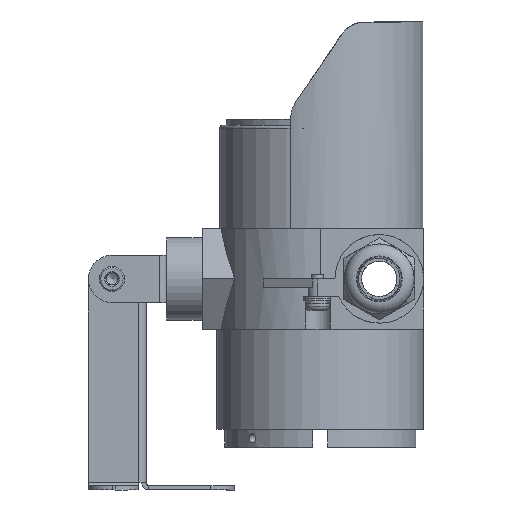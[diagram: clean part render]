
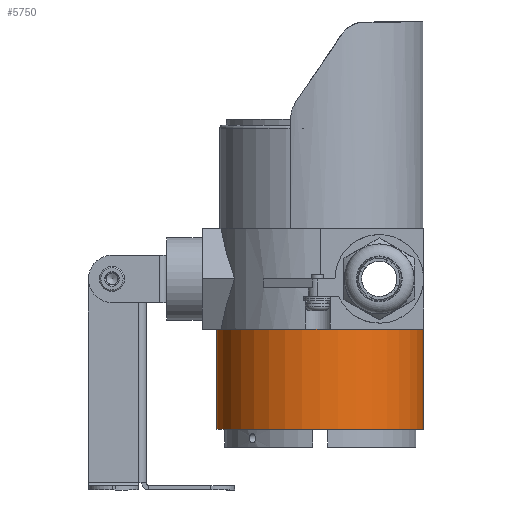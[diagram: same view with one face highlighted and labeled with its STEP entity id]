
A CAD part, left-side view. The second image highlights one B-rep face of the part: STEP entity #5750.
In plain terms, the highlighted cylindrical face has radius 35 mm (diameter 70 mm), a full revolution.
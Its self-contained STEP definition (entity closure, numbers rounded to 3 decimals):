
#154 = ORIENTED_EDGE ( 'NONE', *, *, #3615, .F. ) ;
#551 = VERTEX_POINT ( 'NONE', #10273 ) ;
#2142 = AXIS2_PLACEMENT_3D ( 'NONE', #3070, #9746, #4021 ) ;
#2212 = AXIS2_PLACEMENT_3D ( 'NONE', #4606, #11272, #5587 ) ;
#2254 = EDGE_LOOP ( 'NONE', ( #154 ) ) ;
#3070 = CARTESIAN_POINT ( 'NONE',  ( -12.55, 1.728, -42.677 ) ) ;
#3615 = EDGE_CURVE ( 'NONE', #10956, #10956, #9093, .T. ) ;
#3987 = FACE_OUTER_BOUND ( 'NONE', #2254, .T. ) ;
#4021 = DIRECTION ( 'NONE',  ( 1., 0., 0. ) ) ;
#4340 = EDGE_CURVE ( 'NONE', #551, #551, #7313, .T. ) ;
#4606 = CARTESIAN_POINT ( 'NONE',  ( -12.55, 1.728, -8.677 ) ) ;
#5587 = DIRECTION ( 'NONE',  ( 1., 0., 0. ) ) ;
#5604 = EDGE_LOOP ( 'NONE', ( #8004 ) ) ;
#5750 = ADVANCED_FACE ( 'NONE', ( #9051, #3987 ), #8751, .T. ) ;
#7313 = CIRCLE ( 'NONE', #2142, 35. ) ;
#8004 = ORIENTED_EDGE ( 'NONE', *, *, #4340, .T. ) ;
#8510 = CARTESIAN_POINT ( 'NONE',  ( -12.55, 1.728, -8.677 ) ) ;
#8551 = DIRECTION ( 'NONE',  ( 0., 0., 1. ) ) ;
#8751 = CYLINDRICAL_SURFACE ( 'NONE', #8943, 35. ) ;
#8943 = AXIS2_PLACEMENT_3D ( 'NONE', #8510, #8551, #10489 ) ;
#9051 = FACE_OUTER_BOUND ( 'NONE', #5604, .T. ) ;
#9093 = CIRCLE ( 'NONE', #2212, 35. ) ;
#9746 = DIRECTION ( 'NONE',  ( 0., 0., 1. ) ) ;
#10273 = CARTESIAN_POINT ( 'NONE',  ( 22.45, 1.728, -42.677 ) ) ;
#10489 = DIRECTION ( 'NONE',  ( 1., 0., 0. ) ) ;
#10956 = VERTEX_POINT ( 'NONE', #12152 ) ;
#11272 = DIRECTION ( 'NONE',  ( 0., 0., 1. ) ) ;
#12152 = CARTESIAN_POINT ( 'NONE',  ( 22.45, 1.728, -8.677 ) ) ;
